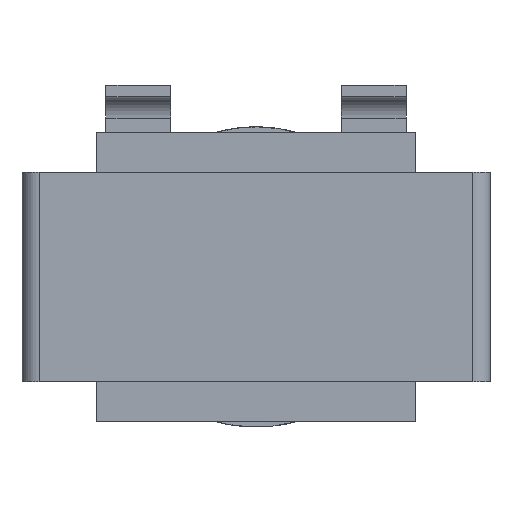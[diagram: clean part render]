
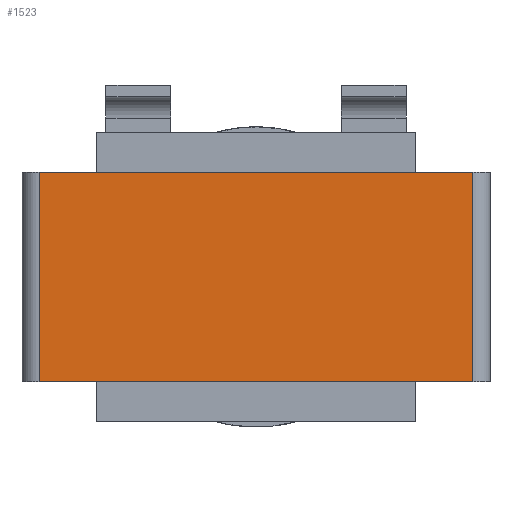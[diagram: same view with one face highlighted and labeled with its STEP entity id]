
A CAD part, front view. The second image highlights one B-rep face of the part: STEP entity #1523.
In plain terms, the highlighted planar face has unit normal (0, -1, 0).
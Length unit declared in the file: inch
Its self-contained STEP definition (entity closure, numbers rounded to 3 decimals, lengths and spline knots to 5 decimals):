
#58 = VECTOR ( 'NONE', #5463, 39.37008 ) ;
#99 = EDGE_CURVE ( 'NONE', #2159, #3102, #4515, .T. ) ;
#226 = DIRECTION ( 'NONE',  ( 0., -1., 0. ) ) ;
#282 = LINE ( 'NONE', #7726, #6161 ) ;
#600 = CARTESIAN_POINT ( 'NONE',  ( -1.67978, -0.74064, 2.03356 ) ) ;
#783 = AXIS2_PLACEMENT_3D ( 'NONE', #6105, #226, #2336 ) ;
#1064 = CARTESIAN_POINT ( 'NONE',  ( -1.67978, -0.74064, 1.06505 ) ) ;
#1190 = DIRECTION ( 'NONE',  ( 0., 0., -1. ) ) ;
#1523 = ADVANCED_FACE ( 'NONE', ( #3190 ), #4716, .T. ) ;
#1655 = DIRECTION ( 'NONE',  ( -1., 0., 0. ) ) ;
#2159 = VERTEX_POINT ( 'NONE', #600 ) ;
#2219 = DIRECTION ( 'NONE',  ( 0., 0., -1. ) ) ;
#2336 = DIRECTION ( 'NONE',  ( 0., 0., -1. ) ) ;
#2719 = LINE ( 'NONE', #7578, #6496 ) ;
#3032 = CARTESIAN_POINT ( 'NONE',  ( -3.68214, -0.74064, 2.03356 ) ) ;
#3102 = VERTEX_POINT ( 'NONE', #3032 ) ;
#3138 = VERTEX_POINT ( 'NONE', #3687 ) ;
#3190 = FACE_OUTER_BOUND ( 'NONE', #3421, .T. ) ;
#3421 = EDGE_LOOP ( 'NONE', ( #7517, #5357, #7734, #3425 ) ) ;
#3425 = ORIENTED_EDGE ( 'NONE', *, *, #6799, .T. ) ;
#3687 = CARTESIAN_POINT ( 'NONE',  ( -3.68214, -0.74064, 1.06505 ) ) ;
#4157 = CARTESIAN_POINT ( 'NONE',  ( -1.67978, -0.74064, 2.03356 ) ) ;
#4254 = EDGE_CURVE ( 'NONE', #2159, #7223, #282, .T. ) ;
#4515 = LINE ( 'NONE', #4157, #58 ) ;
#4716 = PLANE ( 'NONE',  #783 ) ;
#5357 = ORIENTED_EDGE ( 'NONE', *, *, #4254, .F. ) ;
#5463 = DIRECTION ( 'NONE',  ( -1., 0., 0. ) ) ;
#6105 = CARTESIAN_POINT ( 'NONE',  ( -1.67978, -0.74064, 2.03356 ) ) ;
#6161 = VECTOR ( 'NONE', #1190, 39.37008 ) ;
#6409 = VECTOR ( 'NONE', #2219, 39.37008 ) ;
#6496 = VECTOR ( 'NONE', #1655, 39.37008 ) ;
#6799 = EDGE_CURVE ( 'NONE', #3102, #3138, #8170, .T. ) ;
#6894 = EDGE_CURVE ( 'NONE', #7223, #3138, #2719, .T. ) ;
#7223 = VERTEX_POINT ( 'NONE', #1064 ) ;
#7517 = ORIENTED_EDGE ( 'NONE', *, *, #6894, .F. ) ;
#7578 = CARTESIAN_POINT ( 'NONE',  ( -1.67978, -0.74064, 1.06505 ) ) ;
#7726 = CARTESIAN_POINT ( 'NONE',  ( -1.67978, -0.74064, 2.03356 ) ) ;
#7734 = ORIENTED_EDGE ( 'NONE', *, *, #99, .T. ) ;
#8059 = CARTESIAN_POINT ( 'NONE',  ( -3.68214, -0.74064, 2.03356 ) ) ;
#8170 = LINE ( 'NONE', #8059, #6409 ) ;
